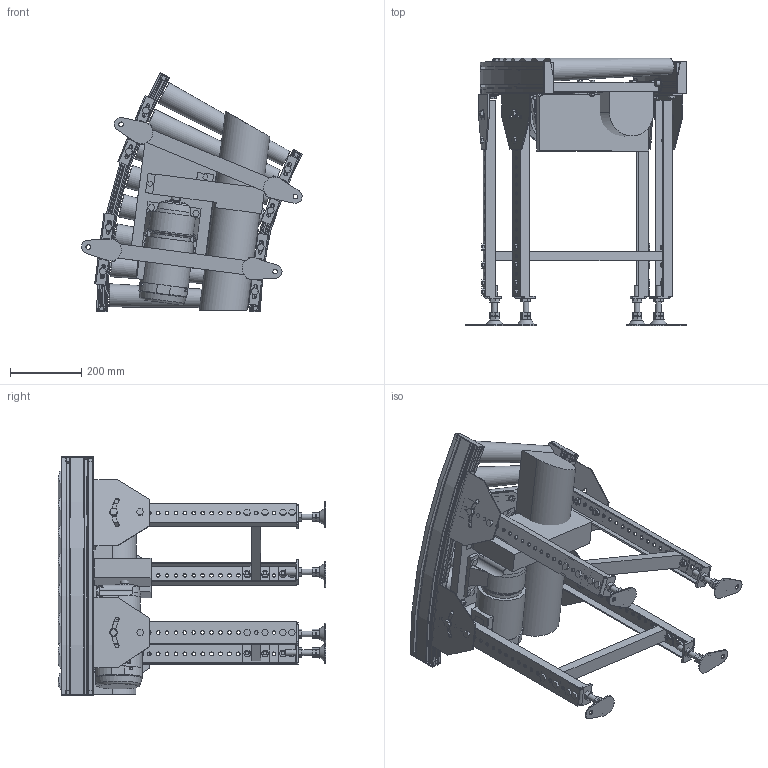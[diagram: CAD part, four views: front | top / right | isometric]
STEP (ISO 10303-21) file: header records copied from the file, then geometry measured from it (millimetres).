
FILE_DESCRIPTION( (''), '2;1');
FILE_NAME ('WEB-MCD1-50-400-75-30°-C9.stp','2026-06-19T10:56:02',(''),(''),'spGate 21.9.5 (****-****-****-****)','','');
FILE_SCHEMA (('AUTOMOTIVE_DESIGN'));
Length unit declared in the file: millimetre
Products named in the file (28): WEB-MCD1-50-400-75-30_-C9; TEMP_X_T-prt0; TEMP_X_T-prt1; TEMP_X_T-prt2; TEMP_X_T-prt3; TEMP_X_T-prt4; TEMP_X_T-prt5; TEMP_X_T-prt6; TEMP_X_T-prt7; TEMP_X_T-prt8; TEMP_X_T-prt9; TEMP_X_T-prt10; TEMP_X_T-prt11; TEMP_X_T-prt12; TEMP_X_T-prt13; TEMP_X_T-prt14; TEMP_X_T-prt15; TEMP_X_T-prt16; TEMP_X_T-prt17; TEMP_X_T-prt18; TEMP_X_T-prt19; TEMP_X_T-prt20; TEMP_X_T-prt21; TEMP_X_T-prt22; TEMP_X_T-prt23; TEMP_X_T-prt24; TEMP_X_T-prt25; TEMP_X_T-prt26
Assembly tree (27 placements, depth 2):
  WEB-MCD1-50-400-75-30_-C9
    TEMP_X_T-prt0
    TEMP_X_T-prt1
    TEMP_X_T-prt2
    TEMP_X_T-prt3
    TEMP_X_T-prt4
    TEMP_X_T-prt5
    TEMP_X_T-prt6
    TEMP_X_T-prt7
    TEMP_X_T-prt8
    TEMP_X_T-prt9
    TEMP_X_T-prt10
    TEMP_X_T-prt11
    TEMP_X_T-prt12
    TEMP_X_T-prt13
    TEMP_X_T-prt14
    TEMP_X_T-prt15
    TEMP_X_T-prt16
    TEMP_X_T-prt17
    TEMP_X_T-prt18
    TEMP_X_T-prt19
    TEMP_X_T-prt20
    TEMP_X_T-prt21
    TEMP_X_T-prt22
    TEMP_X_T-prt23
    TEMP_X_T-prt24
    TEMP_X_T-prt25
    TEMP_X_T-prt26
Bounding box: 619.87 x 750 x 670.6 mm (x, y, z)
Volume: 29252604.9 mm3; surface area: 2972940.9 mm2
Topology: 27 solids, 55 shells, 2215 faces, 5452 edges, 3548 vertices
Faces by surface type: plane 1796, cylinder 388, bspline 31
Full cylindrical faces by diameter (mm): 6 x1, 8 x16, 10 x32, 10.2 x8, 10.5 x88, 11 x4, 12 x17, 12.2 x2, 12.5 x2, 13 x4, 15.4 x8, 16 x20, 17 x8, 18.4 x28, 18.5 x8, 21 x8, 24 x1, 28 x1, 56 x1, 113.2 x1, 125 x1, 135.411 x1
Entity records: 111981 total; most frequent: CARTESIAN_POINT 13112, DIRECTION 11194, ORIENTED_EDGE 10902, COLOUR_RGB 7693, PRESENTATION_STYLE_ASSIGNMENT 7693, STYLED_ITEM 7693, EDGE_CURVE 5451, DRAUGHTING_PRE_DEFINED_CURVE_FONT 5451
